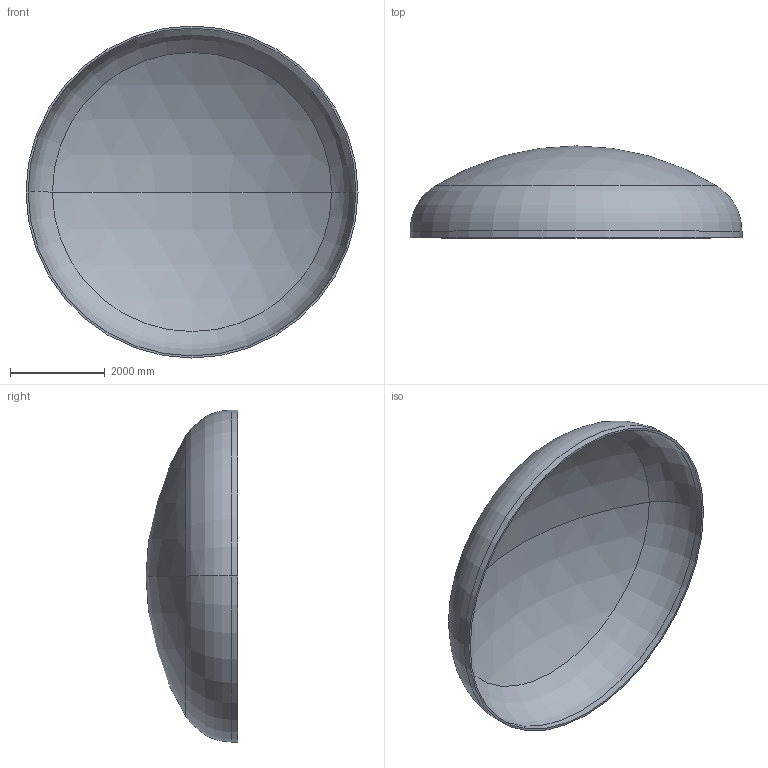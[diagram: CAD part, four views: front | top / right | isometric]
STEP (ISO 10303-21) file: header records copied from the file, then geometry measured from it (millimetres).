
FILE_DESCRIPTION (( 'STEP AP203' ), '1' );
FILE_NAME ('DIN 28013 Korbbogenform_-_Boden DIN 28013 - 7000 x 140 - I - s=44.step', '2016-07-04T10:47:32', ( '' ), ( '' ), 'SwSTEP 2.0', 'SolidWorks 2013', '' );
FILE_SCHEMA (( 'CONFIG_CONTROL_DESIGN' ));
Length unit declared in the file: millimetre
Products named in the file (1): DIN 28013 Korbbogenform_-_Boden DIN 28013 - 7000 x 140 - I - s=44
Bounding box: 7000 x 1938.87 x 7000 mm (x, y, z)
Volume: 2461313666.9 mm3; surface area: 112843433.8 mm2
Topology: 1 solids, 1 shells, 13 faces, 24 edges, 14 vertices
Faces by surface type: torus 4, cylinder 4, sphere 4, plane 1
Entity records: 407 total; most frequent: DIRECTION 72, CARTESIAN_POINT 52, ORIENTED_EDGE 48, AXIS2_PLACEMENT_3D 34, EDGE_CURVE 24, CIRCLE 20, EDGE_LOOP 14, VERTEX_POINT 14
